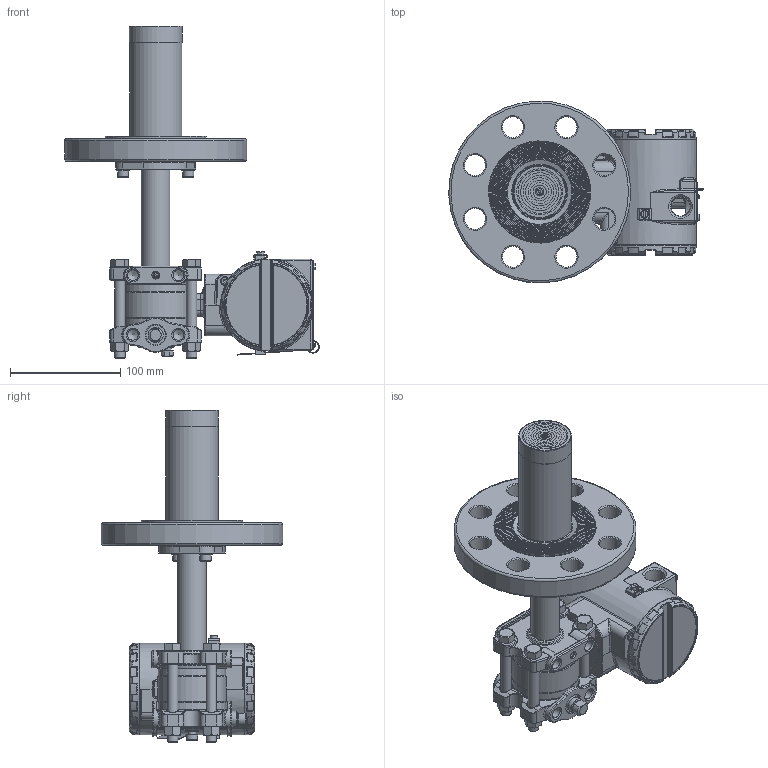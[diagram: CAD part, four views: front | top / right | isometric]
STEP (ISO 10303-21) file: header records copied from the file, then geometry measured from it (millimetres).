
FILE_DESCRIPTION(/* description */ (''),/* implementation_level */ '2;1');
FILE_NAME(/* name */ 'F:\Area\Desenvolvimento_2\Projects\Sensor\projetos\LD30X\montagens 3d - clientes\SELO NIVEL\LD30XL 2-300 RF ext 100 ref 1-4NPT purga acima.stp',/* time_stamp */ '2023-02-10T15:58:46-03:00',/* author */ ('inventor02'),/* organization */ (''),/* preprocessor_version */ 'ST-DEVELOPER v17',/* originating_system */ 'Autodesk Inventor 2019',/* authorisation */ '');
FILE_SCHEMA (('CONFIG_CONTROL_DESIGN'));
Products named in the file (41): LD30XL 2-300 RF ext 100 ref 1-4NPT purga acima; 204-0301-L-2 300 RF ext 100 purga acima; nivel fx3 com baixa diferencial 1-4NPT purga acima; involucro fx0-3 apos a usinagem final; flange diferencial std purga; 101-C-7484-01 flange selo nivel VR; 201-A-0504-tubo união teste 1; bujao 1-4NPT; Sangria; Porca 3-8 x 16 UNC; Paraf. 3-8 x 16 UNC; adaptação tubo x flanges 1-1-2 a 4pol; 101-B-0161-anel cortado do tubo - teste1; 101-B-0162-flange fixação tubo; ANSI B18.3.1M - M6x1 x 16; DIN 127 - A 6; flange 2 300 ext 100; 101-C-0117-10; 101-B-7700-01-100; 101-B-0168-11; carcaça vazia com tampas e plaqueta; carcaça LD inox sem letras; Subconjunto plaqueta 300; Plaqueta transmissor; Parafuso da Plaqueta; Rebite da Plaqueta; 096-A-0169-03; 101-A-0502-01; Chapa aterramento externo; ISO 1207 - M4 x 8; DIN 915 - M6 x 10; ANSI B18.3.1M - M4x0,7 x 8; Subconjunto tampa com visor aluminio; tampa pintada; VIDRO DO VISOR; oring 41x1 vidro tampa; Trava do vidro da tampa com visor; trava do vidro VH256; Subconjunto tampa sem visor-aluminio; tampa cega 300 pintada p0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
Assembly tree (51 placements, depth 4):
  LD30XL 2-300 RF ext 100 ref 1-4NPT purga acima
    204-0301-L-2 300 RF ext 100 purga acima
      nivel fx3 com baixa diferencial 1-4NPT purga acima
        involucro fx0-3 apos a usinagem final
        flange diferencial std purga
        101-C-7484-01 flange selo nivel VR
        201-A-0504-tubo união teste 1
        DIN 915 - M6 x 10
        bujao 1-4NPT
        Sangria
        Porca 3-8 x 16 UNC  x4
        Paraf. 3-8 x 16 UNC  x4
      adaptação tubo x flanges 1-1-2 a 4pol
        101-B-0161-anel cortado do tubo - teste1
        101-B-0162-flange fixação tubo
        ANSI B18.3.1M - M6x1 x 16  x2
        DIN 127 - A 6  x2
      flange 2 300 ext 100
        101-C-0117-10
        101-B-7700-01-100
        101-B-0168-11
    carcaça vazia com tampas e plaqueta
      carcaça LD inox sem letras
      Subconjunto plaqueta 300
        Plaqueta transmissor
        Parafuso da Plaqueta
        Rebite da Plaqueta
        096-A-0169-03
        101-A-0502-01
      Chapa aterramento externo
      ISO 1207 - M4 x 8
      DIN 915 - M6 x 10
      ANSI B18.3.1M - M4x0,7 x 8  x2
      Subconjunto tampa com visor aluminio
        tampa pintada
        VIDRO DO VISOR
        oring 41x1 vidro tampa
        Trava do vidro da tampa com visor
        trava do vidro VH256
        00034775-0
      Subconjunto tampa sem visor-aluminio
        tampa cega 300 pintada p0
        00034775-0
Bounding box: 230.71 x 164.84 x 301 mm (x, y, z)
Volume: 1067200.2 mm3; surface area: 346461.5 mm2
Topology: 43 solids, 43 shells, 2756 faces, 6595 edges, 3904 vertices
Faces by surface type: bspline 666, cylinder 660, plane 569, torus 479, cone 256, sphere 126
Full cylindrical faces by diameter (mm): 2 x4, 2.1 x2, 2.459 x5, 2.5 x1, 2.642 x1, 2.7 x1, 2.8 x1, 3 x4, 3.242 x4, 3.5 x5, 3.571 x1, 4 x5, 4.3 x1, 4.4 x1, 4.917 x4, 5 x1, 5.5 x3, 6 x6, 6.647 x1, 7 x7, 7.087 x2, 7.6 x2, 7.798 x4, 8 x1, 8.7 x2, 9.525 x4, 9.728 x6, 10 x2, 10.5 x8, 10.719 x2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
Entity records: 95071 total; most frequent: CARTESIAN_POINT 34704, DIRECTION 12469, ORIENTED_EDGE 12370, EDGE_CURVE 6185, AXIS2_PLACEMENT_3D 5507, VERTEX_POINT 3710, CIRCLE 3261, EDGE_LOOP 2813
